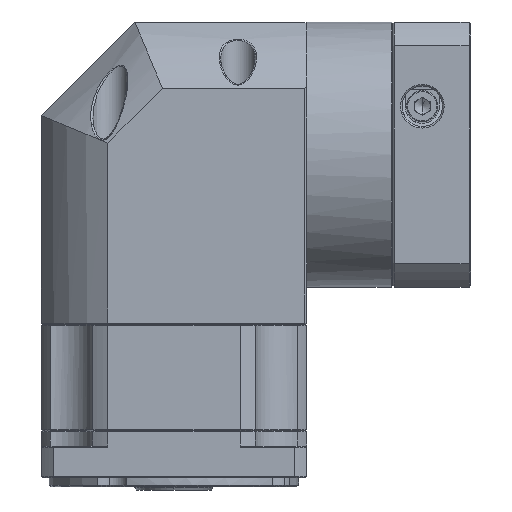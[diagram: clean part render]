
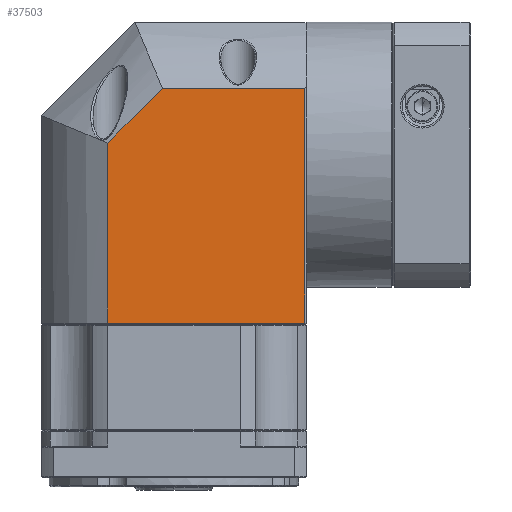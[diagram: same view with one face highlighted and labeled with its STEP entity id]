
A CAD part, front view. The second image highlights one B-rep face of the part: STEP entity #37503.
In plain terms, the highlighted planar face has unit normal (0, -1, 0).
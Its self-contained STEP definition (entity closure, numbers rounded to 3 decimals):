
#3821 = VECTOR ( 'NONE', #20171, 1000. ) ;
#6968 = CARTESIAN_POINT ( 'NONE',  ( 4.384, 111.923, 12.294 ) ) ;
#12467 = VECTOR ( 'NONE', #77659, 1000. ) ;
#15531 = LINE ( 'NONE', #57850, #150322 ) ;
#18639 = VERTEX_POINT ( 'NONE', #156882 ) ;
#20043 = PLANE ( 'NONE',  #71528 ) ;
#20171 = DIRECTION ( 'NONE',  ( 0.707, 0., 0.707 ) ) ;
#34507 = LINE ( 'NONE', #6968, #3821 ) ;
#35296 = VERTEX_POINT ( 'NONE', #121614 ) ;
#37503 = ADVANCED_FACE ( 'NONE', ( #151215 ), #20043, .F. ) ;
#41876 = CARTESIAN_POINT ( 'NONE',  ( 67.597, 111.923, 51.112 ) ) ;
#47350 = LINE ( 'NONE', #155861, #12467 ) ;
#50445 = VECTOR ( 'NONE', #116371, 1000. ) ;
#54339 = ORIENTED_EDGE ( 'NONE', *, *, #132320, .F. ) ;
#55036 = DIRECTION ( 'NONE',  ( 0., 0., -1. ) ) ;
#57850 = CARTESIAN_POINT ( 'NONE',  ( 68.097, 111.923, -45.388 ) ) ;
#63504 = ORIENTED_EDGE ( 'NONE', *, *, #82805, .F. ) ;
#64607 = VERTEX_POINT ( 'NONE', #130801 ) ;
#65798 = EDGE_CURVE ( 'NONE', #35296, #18639, #15531, .T. ) ;
#71528 = AXIS2_PLACEMENT_3D ( 'NONE', #150743, #72524, #163875 ) ;
#72524 = DIRECTION ( 'NONE',  ( 0., 1., 0. ) ) ;
#77659 = DIRECTION ( 'NONE',  ( 1., 0., 0. ) ) ;
#82805 = EDGE_CURVE ( 'NONE', #106964, #64607, #47350, .T. ) ;
#85118 = VECTOR ( 'NONE', #55036, 1000. ) ;
#87305 = ORIENTED_EDGE ( 'NONE', *, *, #116794, .F. ) ;
#89333 = VERTEX_POINT ( 'NONE', #131110 ) ;
#103226 = CARTESIAN_POINT ( 'NONE',  ( 4.384, 111.923, 51.112 ) ) ;
#106964 = VERTEX_POINT ( 'NONE', #148959 ) ;
#110940 = ORIENTED_EDGE ( 'NONE', *, *, #65798, .T. ) ;
#116371 = DIRECTION ( 'NONE',  ( 0., 0., 1. ) ) ;
#116794 = EDGE_CURVE ( 'NONE', #35296, #89333, #154479, .T. ) ;
#119827 = LINE ( 'NONE', #41876, #85118 ) ;
#121614 = CARTESIAN_POINT ( 'NONE',  ( 4.384, 111.923, -45.388 ) ) ;
#124583 = EDGE_LOOP ( 'NONE', ( #110940, #163508, #63504, #54339, #87305 ) ) ;
#130801 = CARTESIAN_POINT ( 'NONE',  ( 67.597, 111.923, 29.825 ) ) ;
#131110 = CARTESIAN_POINT ( 'NONE',  ( 4.384, 111.923, 12.294 ) ) ;
#132320 = EDGE_CURVE ( 'NONE', #89333, #106964, #34507, .T. ) ;
#148959 = CARTESIAN_POINT ( 'NONE',  ( 21.915, 111.923, 29.825 ) ) ;
#150322 = VECTOR ( 'NONE', #162249, 1000. ) ;
#150743 = CARTESIAN_POINT ( 'NONE',  ( 68.097, 111.923, 51.112 ) ) ;
#151215 = FACE_OUTER_BOUND ( 'NONE', #124583, .T. ) ;
#154479 = LINE ( 'NONE', #103226, #50445 ) ;
#155861 = CARTESIAN_POINT ( 'NONE',  ( 68.097, 111.923, 29.825 ) ) ;
#156882 = CARTESIAN_POINT ( 'NONE',  ( 67.597, 111.923, -45.388 ) ) ;
#162249 = DIRECTION ( 'NONE',  ( 1., 0., 0. ) ) ;
#163508 = ORIENTED_EDGE ( 'NONE', *, *, #169219, .F. ) ;
#163875 = DIRECTION ( 'NONE',  ( -1., 0., 0. ) ) ;
#169219 = EDGE_CURVE ( 'NONE', #64607, #18639, #119827, .T. ) ;
